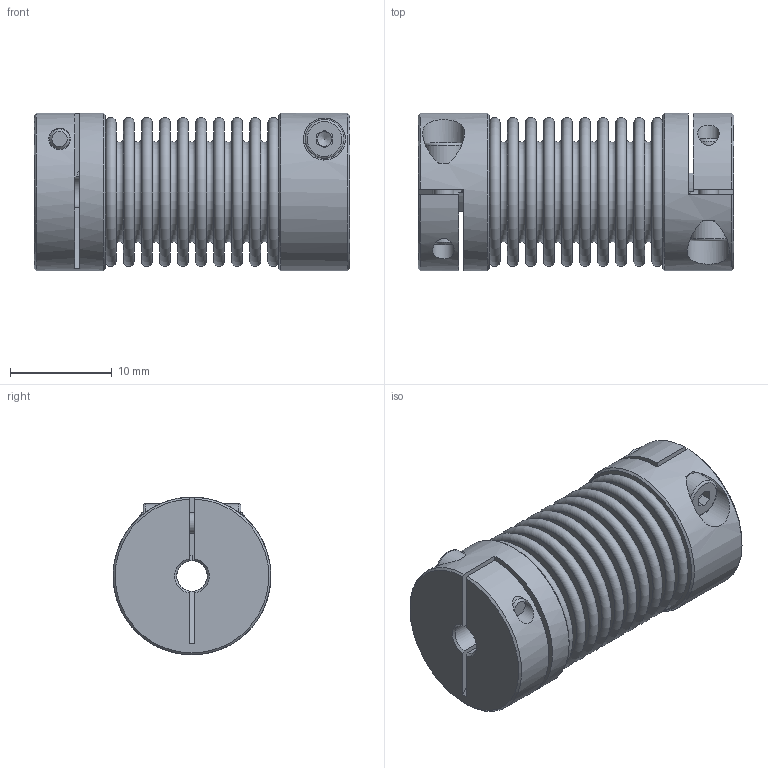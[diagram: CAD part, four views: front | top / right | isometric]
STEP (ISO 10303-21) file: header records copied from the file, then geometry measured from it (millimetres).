
FILE_DESCRIPTION(/* description */ ('STEP AP203'),/* implementation_level */ '2;1');
FILE_NAME(/* name */ 'KB2-10-31-3-3',/* time_stamp */ '2022-09-13T13:40:04+02:00',/* author */ ('License CC BY-ND 4.0'),/* organization */ ('CADENAS'),/* preprocessor_version */ 'ST-DEVELOPER v18.102',/* originating_system */ 'PARTsolutions',/* authorisation */ ' ');
FILE_SCHEMA (('CONFIG_CONTROL_DESIGN'));
Length unit declared in the file: millimetre
Products named in the file (1): KB2-10-31-3-3
Bounding box: 31 x 15.5 x 15.5 mm (x, y, z)
Volume: 2603.5 mm3; surface area: 6436.3 mm2
Topology: 1 solids, 1 shells, 156 faces, 311 edges, 207 vertices
Faces by surface type: plane 82, torus 40, cylinder 22, cone 12
Full cylindrical faces by diameter (mm): 2 x2, 2.126 x4, 3 x2, 3.8 x2, 10.5 x2, 15.5 x2
Entity records: 3812 total; most frequent: CARTESIAN_POINT 709, DIRECTION 674, ORIENTED_EDGE 480, AXIS2_PLACEMENT_3D 297, FACE_BOUND 274, EDGE_LOOP 272, EDGE_CURVE 240, VERTEX_POINT 198
